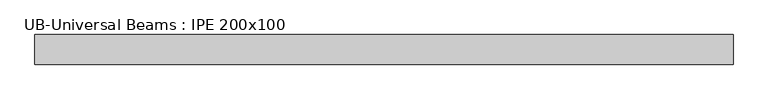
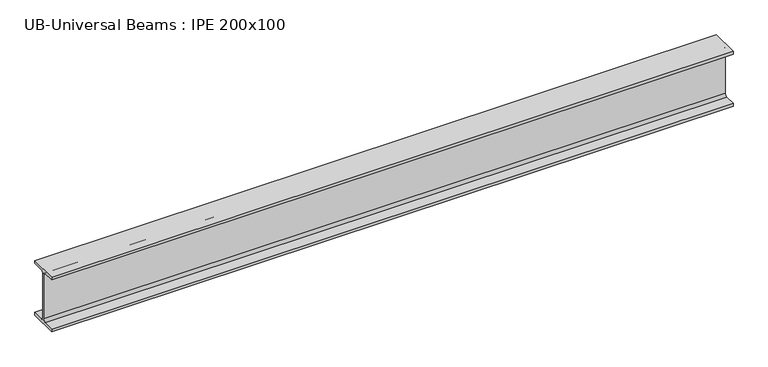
"""IFC4 building model written with IfcOpenShell, lengths in millimetres: beam geometry, UB-Universal Beams : IPE 200x100."""

from ifc_helpers import new_model, si_unit, point, frame, frame_2d, origin, place, context, project, spatial, polyline, circle_curve, trimmed, segment, composite_curve, outline, extrude, source, transform, mapped, element, save


def ub_universal_beams_ipe_200x100_46597ce6(model_context):
    return source(origin(), model_context, "Body", "SweptSolid", [
        extrude(outline(composite_curve([segment(polyline([(-50.0, -89.8), (-11.9, -89.8)]), True, "CONTINUOUS"), segment(trimmed(circle_curve(frame_2d((-11.9, -80.9)), 8.9), [point((-11.9, -89.8))], [point((-3.0, -80.9))], True, "CARTESIAN"), True, "CONTINUOUS"), segment(polyline([(-3.0, -80.9), (-3.0, 80.9)]), True, "CONTINUOUS"), segment(trimmed(circle_curve(frame_2d((-11.9, 80.9)), 8.9), [point((-3.0, 80.9))], [point((-11.9, 89.8))], True, "CARTESIAN"), True, "CONTINUOUS"), segment(polyline([(-11.9, 89.8), (-50.0, 89.8), (-50.0, 100.0), (50.0, 100.0), (50.0, 89.8), (11.9, 89.8)]), True, "CONTINUOUS"), segment(trimmed(circle_curve(frame_2d((11.9, 80.9)), 8.9), [point((11.9, 89.8))], [point((3.0, 80.9))], True, "CARTESIAN"), True, "CONTINUOUS"), segment(polyline([(3.0, 80.9), (3.0, -80.9)]), True, "CONTINUOUS"), segment(trimmed(circle_curve(frame_2d((11.9, -80.9)), 8.9), [point((3.0, -80.9))], [point((11.9, -89.8))], True, "CARTESIAN"), True, "CONTINUOUS"), segment(polyline([(11.9, -89.8), (50.0, -89.8), (50.0, -100.0), (-50.0, -100.0), (-50.0, -89.8)]), True, "CONTINUOUS")], self_intersect=False)), frame((-1154.65, 0.0, 0.0), z_axis=(1.0, 0.0, 0.0), x_axis=(0.0, 1.0, 0.0)), (0.0, 0.0, 1.0), 2359.3),
    ])


if __name__ == "__main__":
    model = new_model("IFC4")
    model_context = context("Model", 3, world=origin())
    ifc_project = project(units=[si_unit("LENGTHUNIT", "METRE", prefix="MILLI")], contexts=[model_context])
    site = spatial("IfcSite", under=ifc_project)
    building = spatial("IfcBuilding", under=site)
    placement = place(None, origin())
    ub_universal_beams_ipe_200x100_shape = ub_universal_beams_ipe_200x100_46597ce6(model_context)
    element("IfcBeam", 1, ObjectType="UB-Universal Beams : IPE 200x100", at=placement, inside=building, context=model_context, shape_type="MappedRepresentation", body=[
        mapped(ub_universal_beams_ipe_200x100_shape, transform((0.0, 0.0, 0.0), x_axis=(1.0, 0.0, 0.0), y_axis=(0.0, 1.0, 0.0), z_axis=(0.0, 0.0, 1.0))),
    ])
    save(model, "model.ifc")
